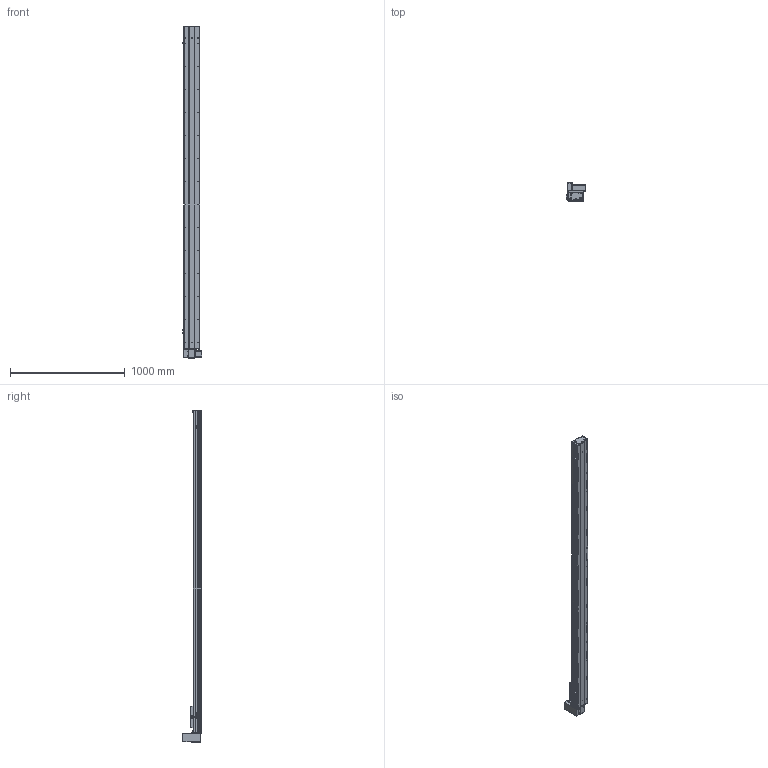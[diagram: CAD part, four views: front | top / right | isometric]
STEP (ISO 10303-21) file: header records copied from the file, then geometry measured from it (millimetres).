
FILE_DESCRIPTION (( 'STEP AP203' ), '1' );
FILE_NAME ('Y135CB-D90-S2500-UR-P400W.STEP', '2020-02-18T06:37:17', ( '微软用户' ), ( '微软中国' ), 'SwSTEP 2.0', 'SolidWorks 2017', '' );
FILE_SCHEMA (( 'CONFIG_CONTROL_DESIGN' ));
Length unit declared in the file: millimetre
Products named in the file (18): Y135C-陔俋离換覜結え-; 0B-埴倛裔啣; 5C--俋欶; 0B-源倛裔啣; C-雄赽釱--; 0B-萇儂楊擘啣; Y10B--々湍喘謫眊--666; san松下电机400不带刹车----; Y10B-耜蚾蟀諉啣----; 5CB --掛极耜裔啣-; 00B-俋欶BM--; C-詩湍揤踡え-陔; Y135CB-耜裔; Y135CB-D90-S2500-UR-P400W; 135CB--詩湍-CE; 135CB---遴掛极.-; Y100-135俋离換覜ん--; 35CB---喘謫眊楊擘啣
Assembly tree (21 placements, depth 2):
  Y135CB-D90-S2500-UR-P400W
    Y135CB-耜裔
    135CB---遴掛极.-
    35CB---喘謫眊楊擘啣
    0B-埴倛裔啣
    0B-源倛裔啣
    0B-萇儂楊擘啣
    san松下电机400不带刹车----
    5CB --掛极耜裔啣-  x2
    C-詩湍揤踡え-陔  x2
    135CB--詩湍-CE
    Y100-135俋离換覜ん--  x3
    Y135C-陔俋离換覜結え-
    5C--俋欶
    C-雄赽釱--
    Y10B--々湍喘謫眊--666
    Y10B-耜蚾蟀諉啣----
    00B-俋欶BM--
Bounding box: 167.5 x 158.7 x 2888 mm (x, y, z)
Volume: 8281705.7 mm3; surface area: 3280055.2 mm2
Topology: 21 solids, 21 shells, 977 faces, 2671 edges, 1770 vertices
Faces by surface type: cylinder 505, plane 456, cone 16
Entity records: 30965 total; most frequent: CARTESIAN_POINT 5164, DIRECTION 5147, ORIENTED_EDGE 4818, EDGE_CURVE 2409, AXIS2_PLACEMENT_3D 1889, VERTEX_POINT 1598, VECTOR 1369, LINE 1369
